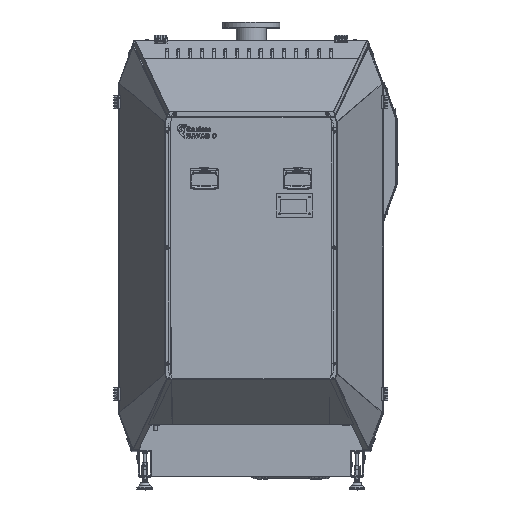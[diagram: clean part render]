
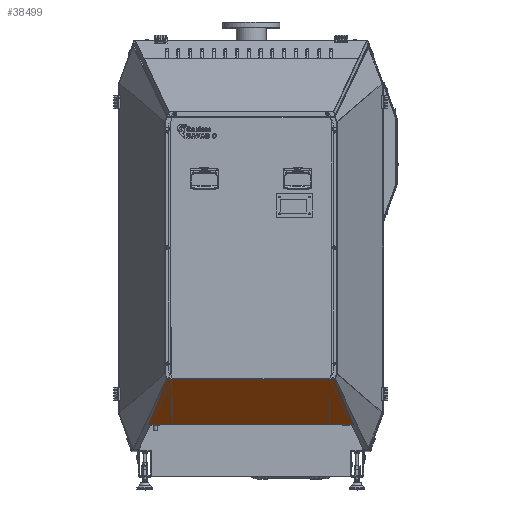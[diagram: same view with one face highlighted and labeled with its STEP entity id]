
A CAD part, top view. The second image highlights one B-rep face of the part: STEP entity #38499.
In plain terms, the highlighted planar face has unit normal (0, -0.87, 0.492).
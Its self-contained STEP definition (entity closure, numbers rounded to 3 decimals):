
#247 = AXIS2_PLACEMENT_3D ( 'NONE', #60329, #61934, #94770 ) ;
#1062 = DIRECTION ( 'NONE',  ( 0., 0.492, 0.87 ) ) ;
#5153 = EDGE_LOOP ( 'NONE', ( #41908, #82301, #85666, #50365, #85882, #46246, #15454, #49132, #105739, #75028, #60020, #60807, #47775, #101696 ) ) ;
#6008 = DIRECTION ( 'NONE',  ( 0., -0.492, -0.87 ) ) ;
#6473 = EDGE_CURVE ( 'NONE', #21534, #63822, #86809, .T. ) ;
#8194 = DIRECTION ( 'NONE',  ( 1., 0., 0. ) ) ;
#9781 = CARTESIAN_POINT ( 'NONE',  ( -292.023, -552.529, 1903.416 ) ) ;
#11198 = AXIS2_PLACEMENT_3D ( 'NONE', #38930, #28222, #103060 ) ;
#14634 = VECTOR ( 'NONE', #1062, 1000. ) ;
#14873 = CARTESIAN_POINT ( 'NONE',  ( -342.827, -380.181, 2208.041 ) ) ;
#15007 = CARTESIAN_POINT ( 'NONE',  ( -343.427, -552.529, 1903.416 ) ) ;
#15021 = DIRECTION ( 'NONE',  ( 0., -0.492, -0.87 ) ) ;
#15178 = CARTESIAN_POINT ( 'NONE',  ( 416.468, -552.529, 1903.416 ) ) ;
#15454 = ORIENTED_EDGE ( 'NONE', *, *, #39561, .T. ) ;
#15533 = DIRECTION ( 'NONE',  ( 0., -0.87, 0.492 ) ) ;
#17968 = EDGE_CURVE ( 'NONE', #21534, #27117, #77472, .T. ) ;
#18895 = CARTESIAN_POINT ( 'NONE',  ( -342.827, -552.185, 1904.026 ) ) ;
#21257 = EDGE_CURVE ( 'NONE', #26330, #30062, #97782, .T. ) ;
#21534 = VERTEX_POINT ( 'NONE', #66858 ) ;
#23310 = VECTOR ( 'NONE', #76917, 1000. ) ;
#24006 = DIRECTION ( 'NONE',  ( 0., -0.492, -0.87 ) ) ;
#24247 = CARTESIAN_POINT ( 'NONE',  ( 403.181, -552.185, 1904.026 ) ) ;
#24417 = DIRECTION ( 'NONE',  ( 1., 0., 0. ) ) ;
#26330 = VERTEX_POINT ( 'NONE', #18895 ) ;
#26406 = VECTOR ( 'NONE', #8194, 1000. ) ;
#27117 = VERTEX_POINT ( 'NONE', #59032 ) ;
#28222 = DIRECTION ( 'NONE',  ( 0., -0.87, 0.492 ) ) ;
#29569 = EDGE_CURVE ( 'NONE', #35776, #63066, #105457, .T. ) ;
#29636 = VERTEX_POINT ( 'NONE', #15007 ) ;
#30062 = VERTEX_POINT ( 'NONE', #34175 ) ;
#31728 = CARTESIAN_POINT ( 'NONE',  ( -342.827, -552.48, 1903.503 ) ) ;
#32323 = CARTESIAN_POINT ( 'NONE',  ( -343.427, -380.181, 2208.041 ) ) ;
#34175 = CARTESIAN_POINT ( 'NONE',  ( -342.827, -552.48, 1903.503 ) ) ;
#35081 = VECTOR ( 'NONE', #64596, 1000. ) ;
#35624 = CARTESIAN_POINT ( 'NONE',  ( -356.714, -552.529, 1903.416 ) ) ;
#35776 = VERTEX_POINT ( 'NONE', #88116 ) ;
#37427 = AXIS2_PLACEMENT_3D ( 'NONE', #73141, #15533, #15021 ) ;
#38499 = ADVANCED_FACE ( 'NONE', ( #78263 ), #71267, .T. ) ;
#38930 = CARTESIAN_POINT ( 'NONE',  ( -292.023, -380.181, 2208.041 ) ) ;
#38964 = VECTOR ( 'NONE', #24417, 1000. ) ;
#39393 = CARTESIAN_POINT ( 'NONE',  ( -361.615, -549.579, 1908.631 ) ) ;
#39561 = EDGE_CURVE ( 'NONE', #58499, #29636, #40673, .T. ) ;
#40138 = VERTEX_POINT ( 'NONE', #105463 ) ;
#40251 = VECTOR ( 'NONE', #98687, 1000. ) ;
#40567 = LINE ( 'NONE', #41594, #38964 ) ;
#40673 = LINE ( 'NONE', #81056, #72012 ) ;
#41378 = CIRCLE ( 'NONE', #247, 5. ) ;
#41594 = CARTESIAN_POINT ( 'NONE',  ( -292.023, -552.185, 1904.026 ) ) ;
#41908 = ORIENTED_EDGE ( 'NONE', *, *, #76542, .T. ) ;
#45895 = CARTESIAN_POINT ( 'NONE',  ( 326.468, -318.571, 2316.936 ) ) ;
#46246 = ORIENTED_EDGE ( 'NONE', *, *, #90871, .T. ) ;
#47696 = CARTESIAN_POINT ( 'NONE',  ( 421.369, -549.579, 1908.631 ) ) ;
#47775 = ORIENTED_EDGE ( 'NONE', *, *, #29569, .T. ) ;
#49132 = ORIENTED_EDGE ( 'NONE', *, *, #56410, .T. ) ;
#50365 = ORIENTED_EDGE ( 'NONE', *, *, #17968, .T. ) ;
#53436 = VECTOR ( 'NONE', #62605, 1000. ) ;
#53809 = CARTESIAN_POINT ( 'NONE',  ( -343.427, -552.185, 1904.026 ) ) ;
#56410 = EDGE_CURVE ( 'NONE', #29636, #68901, #73258, .T. ) ;
#58499 = VERTEX_POINT ( 'NONE', #35624 ) ;
#59032 = CARTESIAN_POINT ( 'NONE',  ( -292.037, -380.21, 2207.99 ) ) ;
#60020 = ORIENTED_EDGE ( 'NONE', *, *, #80405, .T. ) ;
#60329 = CARTESIAN_POINT ( 'NONE',  ( -356.714, -550.067, 1907.768 ) ) ;
#60807 = ORIENTED_EDGE ( 'NONE', *, *, #67573, .T. ) ;
#61337 = CARTESIAN_POINT ( 'NONE',  ( -292.023, -380.21, 2207.99 ) ) ;
#61934 = DIRECTION ( 'NONE',  ( 0., -0.87, 0.492 ) ) ;
#62605 = DIRECTION ( 'NONE',  ( 0.198, -0.483, -0.853 ) ) ;
#63066 = VERTEX_POINT ( 'NONE', #24247 ) ;
#63822 = VERTEX_POINT ( 'NONE', #47696 ) ;
#64596 = DIRECTION ( 'NONE',  ( 1., 0., 0. ) ) ;
#65711 = CARTESIAN_POINT ( 'NONE',  ( 402.581, -380.181, 2208.041 ) ) ;
#66858 = CARTESIAN_POINT ( 'NONE',  ( 351.79, -380.21, 2207.99 ) ) ;
#67127 = CARTESIAN_POINT ( 'NONE',  ( 403.181, -552.529, 1903.416 ) ) ;
#67481 = VECTOR ( 'NONE', #73127, 1000. ) ;
#67573 = EDGE_CURVE ( 'NONE', #40138, #35776, #81855, .T. ) ;
#67805 = LINE ( 'NONE', #84461, #23310 ) ;
#67831 = EDGE_CURVE ( 'NONE', #94412, #63822, #71884, .T. ) ;
#68901 = VERTEX_POINT ( 'NONE', #53809 ) ;
#69702 = VECTOR ( 'NONE', #24006, 1000. ) ;
#71267 = PLANE ( 'NONE',  #11198 ) ;
#71351 = VERTEX_POINT ( 'NONE', #67127 ) ;
#71884 = CIRCLE ( 'NONE', #37427, 5. ) ;
#72012 = VECTOR ( 'NONE', #106376, 1000. ) ;
#72653 = LINE ( 'NONE', #31728, #35081 ) ;
#73127 = DIRECTION ( 'NONE',  ( 1., 0., 0. ) ) ;
#73141 = CARTESIAN_POINT ( 'NONE',  ( 416.468, -550.067, 1907.768 ) ) ;
#73258 = LINE ( 'NONE', #32323, #14634 ) ;
#75028 = ORIENTED_EDGE ( 'NONE', *, *, #21257, .T. ) ;
#76542 = EDGE_CURVE ( 'NONE', #71351, #94412, #100243, .T. ) ;
#76917 = DIRECTION ( 'NONE',  ( 0.198, 0.483, 0.853 ) ) ;
#77472 = LINE ( 'NONE', #61337, #40251 ) ;
#78263 = FACE_OUTER_BOUND ( 'NONE', #5153, .T. ) ;
#80405 = EDGE_CURVE ( 'NONE', #30062, #40138, #72653, .T. ) ;
#80821 = LINE ( 'NONE', #98065, #94017 ) ;
#81056 = CARTESIAN_POINT ( 'NONE',  ( -292.023, -552.529, 1903.416 ) ) ;
#81855 = LINE ( 'NONE', #65711, #99401 ) ;
#82301 = ORIENTED_EDGE ( 'NONE', *, *, #67831, .T. ) ;
#84461 = CARTESIAN_POINT ( 'NONE',  ( -292.025, -380.181, 2208.041 ) ) ;
#85666 = ORIENTED_EDGE ( 'NONE', *, *, #6473, .F. ) ;
#85882 = ORIENTED_EDGE ( 'NONE', *, *, #98564, .F. ) ;
#86809 = LINE ( 'NONE', #45895, #53436 ) ;
#88116 = CARTESIAN_POINT ( 'NONE',  ( 402.581, -552.185, 1904.026 ) ) ;
#90871 = EDGE_CURVE ( 'NONE', #102630, #58499, #41378, .T. ) ;
#94017 = VECTOR ( 'NONE', #6008, 1000. ) ;
#94412 = VERTEX_POINT ( 'NONE', #15178 ) ;
#94770 = DIRECTION ( 'NONE',  ( 0., -0.492, -0.87 ) ) ;
#97782 = LINE ( 'NONE', #14873, #69702 ) ;
#98065 = CARTESIAN_POINT ( 'NONE',  ( 403.181, -380.181, 2208.041 ) ) ;
#98564 = EDGE_CURVE ( 'NONE', #102630, #27117, #67805, .T. ) ;
#98687 = DIRECTION ( 'NONE',  ( -1., 0., 0. ) ) ;
#99401 = VECTOR ( 'NONE', #105589, 1000. ) ;
#99857 = EDGE_CURVE ( 'NONE', #68901, #26330, #40567, .T. ) ;
#100155 = EDGE_CURVE ( 'NONE', #63066, #71351, #80821, .T. ) ;
#100243 = LINE ( 'NONE', #9781, #26406 ) ;
#101696 = ORIENTED_EDGE ( 'NONE', *, *, #100155, .T. ) ;
#102630 = VERTEX_POINT ( 'NONE', #39393 ) ;
#103060 = DIRECTION ( 'NONE',  ( 0., -0.492, -0.87 ) ) ;
#104414 = CARTESIAN_POINT ( 'NONE',  ( -292.023, -552.185, 1904.026 ) ) ;
#105457 = LINE ( 'NONE', #104414, #67481 ) ;
#105463 = CARTESIAN_POINT ( 'NONE',  ( 402.581, -552.48, 1903.503 ) ) ;
#105589 = DIRECTION ( 'NONE',  ( 0., 0.492, 0.87 ) ) ;
#105739 = ORIENTED_EDGE ( 'NONE', *, *, #99857, .T. ) ;
#106376 = DIRECTION ( 'NONE',  ( 1., 0., 0. ) ) ;
